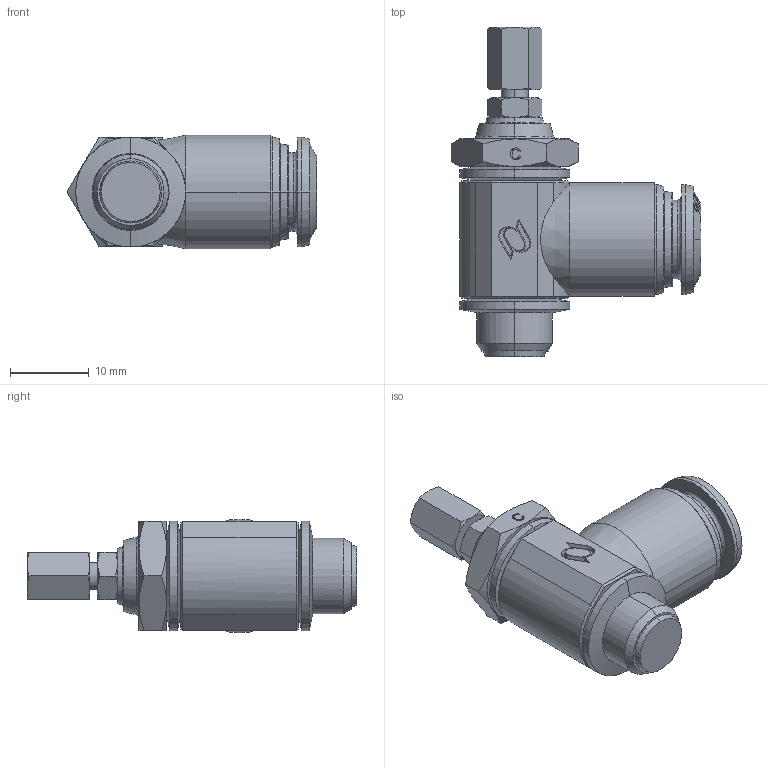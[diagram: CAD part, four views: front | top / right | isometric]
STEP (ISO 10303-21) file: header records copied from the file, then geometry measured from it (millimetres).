
FILE_DESCRIPTION (( 'STEP AP203' ), '1' );
FILE_NAME ('249929.STEP', '2016-09-20T13:34:04', ( '' ), ( '' ), 'SwSTEP 2.0', 'SolidWorks 2016', '' );
FILE_SCHEMA (( 'CONFIG_CONTROL_DESIGN' ));
Length unit declared in the file: millimetre
Products named in the file (1): 249929
Bounding box: 31.78 x 42 x 14.5 mm (x, y, z)
Volume: 8202.6 mm3; surface area: 4364.9 mm2
Topology: 5 solids, 5 shells, 406 faces, 985 edges, 615 vertices
Faces by surface type: bspline 137, cone 125, plane 89, cylinder 55
Entity records: 21007 total; most frequent: CARTESIAN_POINT 12234, ORIENTED_EDGE 1966, DIRECTION 1533, EDGE_CURVE 983, VERTEX_POINT 615, AXIS2_PLACEMENT_3D 595, EDGE_LOOP 446, FACE_OUTER_BOUND 406
